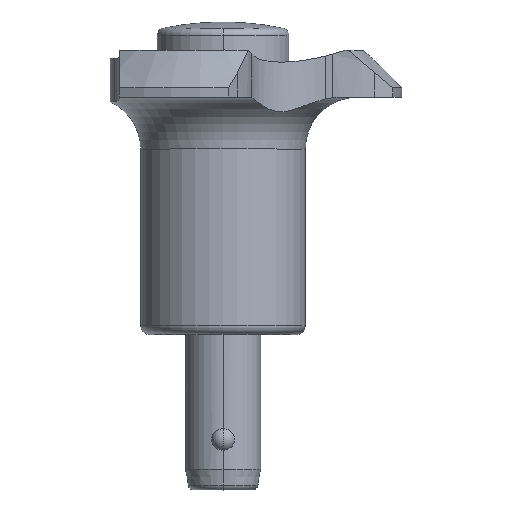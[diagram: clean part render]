
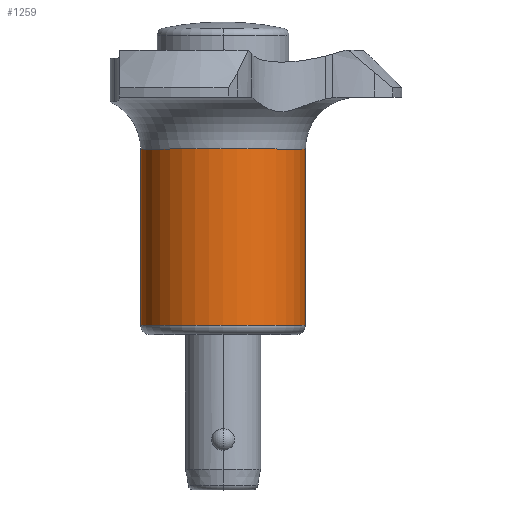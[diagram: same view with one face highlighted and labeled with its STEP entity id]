
A CAD part, top view. The second image highlights one B-rep face of the part: STEP entity #1259.
In plain terms, the highlighted cylindrical face has radius 8.75 mm (diameter 17.5 mm), a partial arc.
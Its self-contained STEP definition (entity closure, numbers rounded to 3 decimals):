
#58 = DIRECTION ( 'NONE',  ( -1., 0., 0. ) ) ;
#78 = EDGE_CURVE ( 'NONE', #1651, #2653, #906, .T. ) ;
#84 = AXIS2_PLACEMENT_3D ( 'NONE', #2649, #2602, #891 ) ;
#87 = CYLINDRICAL_SURFACE ( 'NONE', #2145, 8.75 ) ;
#176 = AXIS2_PLACEMENT_3D ( 'NONE', #2339, #1878, #2755 ) ;
#216 = VERTEX_POINT ( 'NONE', #2360 ) ;
#311 = CARTESIAN_POINT ( 'NONE',  ( 8.75, 30.2, 0. ) ) ;
#368 = CARTESIAN_POINT ( 'NONE',  ( 8.75, 19.7, 0. ) ) ;
#386 = DIRECTION ( 'NONE',  ( 0., 1., 0. ) ) ;
#704 = DIRECTION ( 'NONE',  ( 0., 1., 0. ) ) ;
#891 = DIRECTION ( 'NONE',  ( -1., 0., 0. ) ) ;
#906 = LINE ( 'NONE', #311, #2205 ) ;
#1108 = ORIENTED_EDGE ( 'NONE', *, *, #2154, .F. ) ;
#1167 = DIRECTION ( 'NONE',  ( 0., 1., 0. ) ) ;
#1175 = CIRCLE ( 'NONE', #176, 8.75 ) ;
#1234 = EDGE_LOOP ( 'NONE', ( #1513, #2780, #2792, #1108 ) ) ;
#1244 = EDGE_CURVE ( 'NONE', #1370, #2653, #2525, .T. ) ;
#1259 = ADVANCED_FACE ( 'NONE', ( #1357 ), #87, .T. ) ;
#1357 = FACE_OUTER_BOUND ( 'NONE', #1234, .T. ) ;
#1370 = VERTEX_POINT ( 'NONE', #1620 ) ;
#1513 = ORIENTED_EDGE ( 'NONE', *, *, #2535, .T. ) ;
#1543 = VECTOR ( 'NONE', #386, 1000. ) ;
#1620 = CARTESIAN_POINT ( 'NONE',  ( -8.75, 19.7, 0. ) ) ;
#1651 = VERTEX_POINT ( 'NONE', #2058 ) ;
#1878 = DIRECTION ( 'NONE',  ( 0., 1., 0. ) ) ;
#2058 = CARTESIAN_POINT ( 'NONE',  ( 8.75, 1., 0. ) ) ;
#2086 = CARTESIAN_POINT ( 'NONE',  ( -8.75, 30.2, 0. ) ) ;
#2145 = AXIS2_PLACEMENT_3D ( 'NONE', #2409, #704, #58 ) ;
#2154 = EDGE_CURVE ( 'NONE', #216, #1370, #2318, .T. ) ;
#2205 = VECTOR ( 'NONE', #1167, 1000. ) ;
#2318 = LINE ( 'NONE', #2086, #1543 ) ;
#2339 = CARTESIAN_POINT ( 'NONE',  ( 0., 1., 0. ) ) ;
#2360 = CARTESIAN_POINT ( 'NONE',  ( -8.75, 1., 0. ) ) ;
#2409 = CARTESIAN_POINT ( 'NONE',  ( 0., 30.2, 0. ) ) ;
#2525 = CIRCLE ( 'NONE', #84, 8.75 ) ;
#2535 = EDGE_CURVE ( 'NONE', #216, #1651, #1175, .T. ) ;
#2602 = DIRECTION ( 'NONE',  ( 0., 1., 0. ) ) ;
#2649 = CARTESIAN_POINT ( 'NONE',  ( 0., 19.7, 0. ) ) ;
#2653 = VERTEX_POINT ( 'NONE', #368 ) ;
#2755 = DIRECTION ( 'NONE',  ( 1., 0., 0. ) ) ;
#2780 = ORIENTED_EDGE ( 'NONE', *, *, #78, .T. ) ;
#2792 = ORIENTED_EDGE ( 'NONE', *, *, #1244, .F. ) ;
